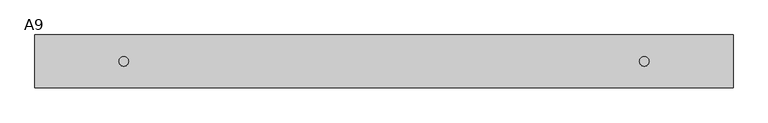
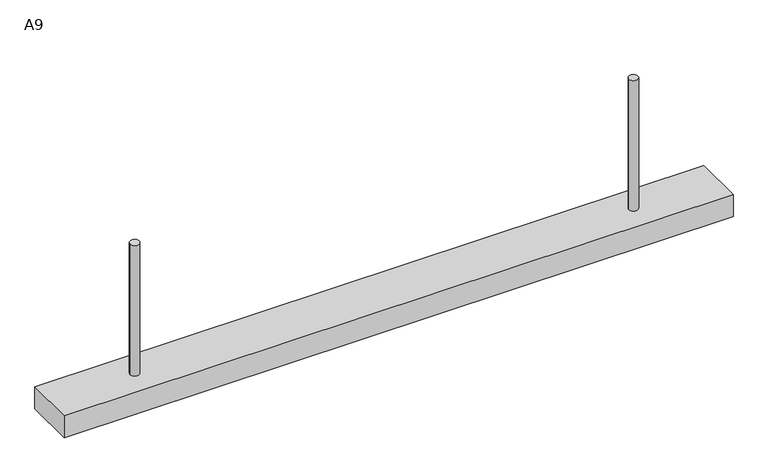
"""IFC4 building model written with IfcOpenShell, lengths in millimetres: light fixture geometry, AI_Luminaire_Linéaire avec suspente : A9."""

from ifc_helpers import new_model, si_unit, point, frame, frame_2d, origin, origin_with_axes, place, context, project, spatial, polyline, circle_curve, trimmed, segment, composite_curve, outline, extrude, source, transform, mapped, element, save


def a9_4b38396c(model_context):
    return source(origin(), model_context, "Body", "SweptSolid", [
        extrude(outline(polyline([(725.0, 55.0), (725.0, -55.0), (-725.0, -55.0), (-725.0, 55.0), (725.0, 55.0)])), frame((0.0, 0.0, -50.0), z_axis=(0.0, 0.0, 1.0), x_axis=(1.0, 0.0, 0.0)), (0.0, 0.0, 1.0), 50.0),
        extrude(outline(composite_curve([segment(trimmed(circle_curve(frame_2d((-540.4727511, 0.0)), 10.0), [point((-550.4727511, 0.0))], [point((-530.4727511, 0.0))], False, "CARTESIAN"), True, "CONTINUOUS"), segment(trimmed(circle_curve(frame_2d((-540.4727511, 0.0)), 10.0), [point((-530.4727511, 0.0))], [point((-550.4727511, 0.0))], False, "CARTESIAN"), True, "CONTINUOUS")], self_intersect=False)), origin_with_axes(), (0.0, 0.0, 1.0), 300.0),
        extrude(outline(composite_curve([segment(trimmed(circle_curve(frame_2d((540.4727511, 0.0)), 10.0), [point((530.4727511, 0.0))], [point((550.4727511, 0.0))], False, "CARTESIAN"), True, "CONTINUOUS"), segment(trimmed(circle_curve(frame_2d((540.4727511, 0.0)), 10.0), [point((550.4727511, 0.0))], [point((530.4727511, 0.0))], False, "CARTESIAN"), True, "CONTINUOUS")], self_intersect=False)), origin_with_axes(), (0.0, 0.0, 1.0), 300.0),
    ])


if __name__ == "__main__":
    model = new_model("IFC4")
    model_context = context("Model", 3, world=origin())
    ifc_project = project(units=[si_unit("LENGTHUNIT", "METRE", prefix="MILLI")], contexts=[model_context])
    site = spatial("IfcSite", under=ifc_project)
    building = spatial("IfcBuilding", under=site)
    placement = place(None, origin())
    a9_shape = a9_4b38396c(model_context)
    element("IfcLightFixture", 1, ObjectType="AI_Luminaire_Linéaire avec suspente : A9", at=placement, inside=building, context=model_context, shape_type="MappedRepresentation", body=[
        mapped(a9_shape, transform((0.0, 0.0, 0.0), x_axis=(1.0, 0.0, 0.0), y_axis=(0.0, 1.0, 0.0), z_axis=(0.0, 0.0, 1.0))),
    ])
    save(model, "model.ifc")
